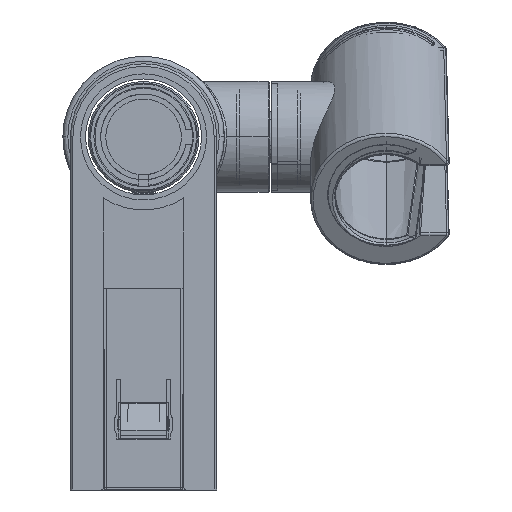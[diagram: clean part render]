
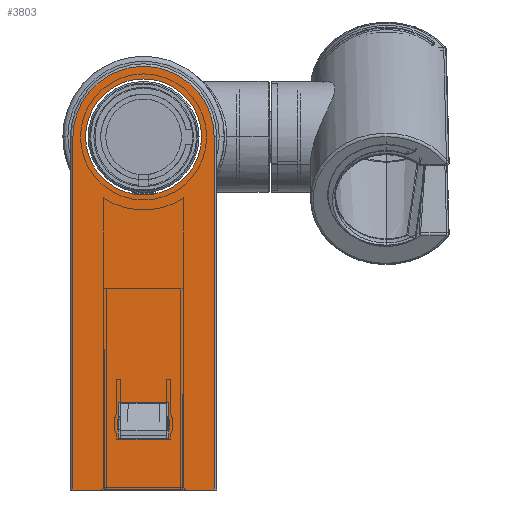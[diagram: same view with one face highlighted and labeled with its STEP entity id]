
A CAD part, front view. The second image highlights one B-rep face of the part: STEP entity #3803.
In plain terms, the highlighted planar face has unit normal (0, -1, 0) as drawn and (0, 0, -1) by its records, which use the part's own axes.
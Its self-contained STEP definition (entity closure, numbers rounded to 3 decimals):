
#2454=LINE('',#14199,#2974);
#2455=LINE('',#14201,#2975);
#2456=LINE('',#14203,#2976);
#2457=LINE('',#14204,#2977);
#2458=LINE('',#14207,#2978);
#2459=LINE('',#14209,#2979);
#2460=LINE('',#14211,#2980);
#2974=VECTOR('',#11612,1.);
#2975=VECTOR('',#11613,1.);
#2976=VECTOR('',#11614,1.);
#2977=VECTOR('',#11615,1.);
#2978=VECTOR('',#11616,1.);
#2979=VECTOR('',#11617,1.);
#2980=VECTOR('',#11618,1.);
#3547=PLANE('',#10071);
#3803=ADVANCED_FACE('',(#4335,#4336,#4337),#3547,.F.);
#4335=FACE_BOUND('',#4666,.T.);
#4336=FACE_BOUND('',#4667,.T.);
#4337=FACE_BOUND('',#4668,.T.);
#4666=EDGE_LOOP('',(#5951,#5952,#5953,#5954));
#4667=EDGE_LOOP('',(#5955,#5956,#5957,#5958));
#4668=EDGE_LOOP('',(#5959));
#5951=ORIENTED_EDGE('',*,*,#8616,.T.);
#5952=ORIENTED_EDGE('',*,*,#8617,.T.);
#5953=ORIENTED_EDGE('',*,*,#8618,.F.);
#5954=ORIENTED_EDGE('',*,*,#8619,.T.);
#5955=ORIENTED_EDGE('',*,*,#8620,.F.);
#5956=ORIENTED_EDGE('',*,*,#8621,.F.);
#5957=ORIENTED_EDGE('',*,*,#8622,.F.);
#5958=ORIENTED_EDGE('',*,*,#8623,.F.);
#5959=ORIENTED_EDGE('',*,*,#8624,.T.);
#7704=VERTEX_POINT('',#14197);
#7705=VERTEX_POINT('',#14198);
#7706=VERTEX_POINT('',#14200);
#7707=VERTEX_POINT('',#14202);
#7708=VERTEX_POINT('',#14205);
#7709=VERTEX_POINT('',#14206);
#7710=VERTEX_POINT('',#14208);
#7711=VERTEX_POINT('',#14210);
#7712=VERTEX_POINT('',#14213);
#8616=EDGE_CURVE('',#7704,#7705,#9454,.T.);
#8617=EDGE_CURVE('',#7705,#7706,#2454,.T.);
#8618=EDGE_CURVE('',#7707,#7706,#2455,.T.);
#8619=EDGE_CURVE('',#7707,#7704,#2456,.T.);
#8620=EDGE_CURVE('',#7708,#7709,#2457,.T.);
#8621=EDGE_CURVE('',#7710,#7708,#2458,.T.);
#8622=EDGE_CURVE('',#7711,#7710,#2459,.T.);
#8623=EDGE_CURVE('',#7709,#7711,#2460,.T.);
#8624=EDGE_CURVE('',#7712,#7712,#9455,.T.);
#9454=CIRCLE('',#10069,14.);
#9455=CIRCLE('',#10070,11.5);
#10069=AXIS2_PLACEMENT_3D('',#14196,#11610,#11611);
#10070=AXIS2_PLACEMENT_3D('',#14212,#11619,#11620);
#10071=AXIS2_PLACEMENT_3D('',#14214,#11621,#11622);
#11610=DIRECTION('',(0.,0.,-1.));
#11611=DIRECTION('',(1.,0.,0.));
#11612=DIRECTION('',(0.,1.,0.));
#11613=DIRECTION('',(-1.,0.,0.));
#11614=DIRECTION('',(0.,-1.,0.));
#11615=DIRECTION('',(0.,1.,0.));
#11616=DIRECTION('',(-1.,0.,0.));
#11617=DIRECTION('',(0.,-1.,0.));
#11618=DIRECTION('',(1.,0.,0.));
#11619=DIRECTION('',(0.,0.,1.));
#11620=DIRECTION('',(1.,0.,0.));
#11621=DIRECTION('',(0.,0.,1.));
#11622=DIRECTION('',(-1.,0.,0.));
#14196=CARTESIAN_POINT('',(0.,0.,0.));
#14197=CARTESIAN_POINT('',(14.,0.,0.));
#14198=CARTESIAN_POINT('',(-14.,0.,0.));
#14199=CARTESIAN_POINT('',(-14.,70.,0.));
#14200=CARTESIAN_POINT('',(-14.,70.,0.));
#14201=CARTESIAN_POINT('',(-10.,70.,0.));
#14202=CARTESIAN_POINT('',(14.,70.,0.));
#14203=CARTESIAN_POINT('',(14.,0.,0.));
#14204=CARTESIAN_POINT('',(-5.,52.7,0.));
#14205=CARTESIAN_POINT('',(-5.,52.7,0.));
#14206=CARTESIAN_POINT('',(-5.,59.7,0.));
#14207=CARTESIAN_POINT('',(5.,52.7,0.));
#14208=CARTESIAN_POINT('',(5.,52.7,0.));
#14209=CARTESIAN_POINT('',(5.,59.7,0.));
#14210=CARTESIAN_POINT('',(5.,59.7,0.));
#14211=CARTESIAN_POINT('',(-5.,59.7,0.));
#14212=CARTESIAN_POINT('',(0.,0.,0.));
#14213=CARTESIAN_POINT('',(11.5,0.,0.));
#14214=CARTESIAN_POINT('',(0.,0.,0.));
